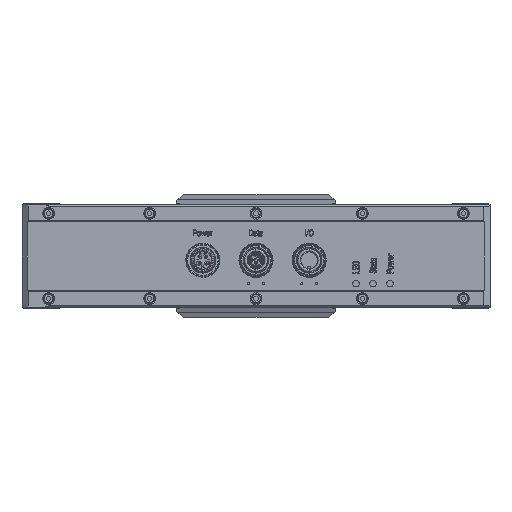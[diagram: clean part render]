
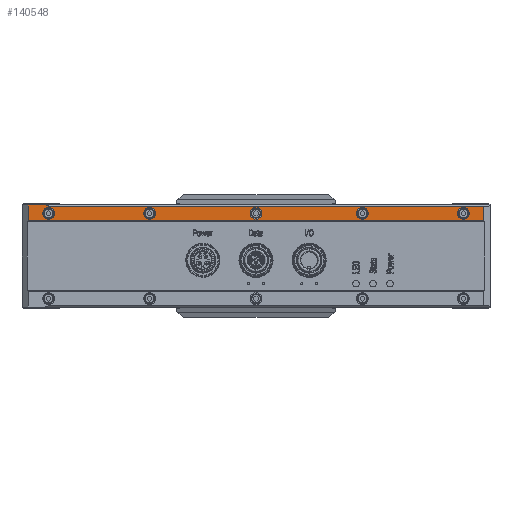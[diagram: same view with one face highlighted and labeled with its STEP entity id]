
A CAD part, front view. The second image highlights one B-rep face of the part: STEP entity #140548.
In plain terms, the highlighted planar face has unit normal (0, -1, 0).
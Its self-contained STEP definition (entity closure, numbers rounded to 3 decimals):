
#29742=DIRECTION('',(1.,0.,0.));
#29743=VECTOR('',#29742,204.5);
#29744=CARTESIAN_POINT('',(12.5,-11.,-0.5));
#29745=LINE('',#29744,#29743);
#29746=CARTESIAN_POINT('',(11.,-11.,0.));
#29747=CARTESIAN_POINT('',(11.049,-11.,-0.029));
#29748=CARTESIAN_POINT('',(11.143,-11.,-0.084));
#29749=CARTESIAN_POINT('',(11.276,-11.,-0.156));
#29750=CARTESIAN_POINT('',(11.403,-11.,-0.22));
#29751=CARTESIAN_POINT('',(11.515,-11.,-0.271));
#29752=CARTESIAN_POINT('',(11.648,-11.,-0.327));
#29753=CARTESIAN_POINT('',(11.765,-11.,-0.37));
#29754=CARTESIAN_POINT('',(11.88,-11.,-0.407));
#29755=CARTESIAN_POINT('',(11.988,-11.,-0.436));
#29756=CARTESIAN_POINT('',(12.091,-11.,-0.46));
#29757=CARTESIAN_POINT('',(12.196,-11.,-0.478));
#29758=CARTESIAN_POINT('',(12.298,-11.,-0.491));
#29759=CARTESIAN_POINT('',(12.4,-11.,-0.498));
#29760=CARTESIAN_POINT('',(12.467,-11.,-0.5));
#29761=CARTESIAN_POINT('',(12.5,-11.,-0.5));
#29763=DIRECTION('',(0.,0.,1.));
#29764=VECTOR('',#29763,7.);
#29765=CARTESIAN_POINT('',(217.,-11.,-7.5));
#29766=LINE('',#29765,#29764);
#29767=DIRECTION('',(1.,0.,0.));
#29768=VECTOR('',#29767,214.);
#29769=CARTESIAN_POINT('',(3.,-11.,-7.5));
#29770=LINE('',#29769,#29768);
#29771=DIRECTION('',(0.,0.,-1.));
#29772=VECTOR('',#29771,7.5);
#29773=CARTESIAN_POINT('',(3.,-11.,0.));
#29774=LINE('',#29773,#29772);
#29775=CARTESIAN_POINT('',(207.5,-11.,-4.));
#29776=DIRECTION('',(0.,1.,0.));
#29777=DIRECTION('',(1.,0.,0.));
#29778=AXIS2_PLACEMENT_3D('',#29775,#29776,#29777);
#29780=CARTESIAN_POINT('',(207.5,-11.,-4.));
#29781=DIRECTION('',(0.,1.,0.));
#29782=DIRECTION('',(-1.,0.,0.));
#29783=AXIS2_PLACEMENT_3D('',#29780,#29781,#29782);
#29785=CARTESIAN_POINT('',(160.,-11.,-4.));
#29786=DIRECTION('',(0.,1.,0.));
#29787=DIRECTION('',(1.,0.,0.));
#29788=AXIS2_PLACEMENT_3D('',#29785,#29786,#29787);
#29790=CARTESIAN_POINT('',(160.,-11.,-4.));
#29791=DIRECTION('',(0.,1.,0.));
#29792=DIRECTION('',(-1.,0.,0.));
#29793=AXIS2_PLACEMENT_3D('',#29790,#29791,#29792);
#29795=CARTESIAN_POINT('',(110.,-11.,-4.));
#29796=DIRECTION('',(0.,1.,0.));
#29797=DIRECTION('',(1.,0.,0.));
#29798=AXIS2_PLACEMENT_3D('',#29795,#29796,#29797);
#29800=CARTESIAN_POINT('',(110.,-11.,-4.));
#29801=DIRECTION('',(0.,1.,0.));
#29802=DIRECTION('',(-1.,0.,0.));
#29803=AXIS2_PLACEMENT_3D('',#29800,#29801,#29802);
#29805=CARTESIAN_POINT('',(60.,-11.,-4.));
#29806=DIRECTION('',(0.,1.,0.));
#29807=DIRECTION('',(1.,0.,0.));
#29808=AXIS2_PLACEMENT_3D('',#29805,#29806,#29807);
#29810=CARTESIAN_POINT('',(60.,-11.,-4.));
#29811=DIRECTION('',(0.,1.,0.));
#29812=DIRECTION('',(-1.,0.,0.));
#29813=AXIS2_PLACEMENT_3D('',#29810,#29811,#29812);
#29815=CARTESIAN_POINT('',(12.5,-11.,-4.));
#29816=DIRECTION('',(0.,1.,0.));
#29817=DIRECTION('',(1.,0.,0.));
#29818=AXIS2_PLACEMENT_3D('',#29815,#29816,#29817);
#29820=CARTESIAN_POINT('',(12.5,-11.,-4.));
#29821=DIRECTION('',(0.,1.,0.));
#29822=DIRECTION('',(-1.,0.,0.));
#29823=AXIS2_PLACEMENT_3D('',#29820,#29821,#29822);
#30372=DIRECTION('',(1.,0.,0.));
#30373=VECTOR('',#30372,8.);
#30374=CARTESIAN_POINT('',(3.,-11.,0.));
#30375=LINE('',#30374,#30373);
#84635=CARTESIAN_POINT('',(3.,-11.,-7.5));
#84637=VERTEX_POINT('',#84635);
#84639=CARTESIAN_POINT('',(3.,-11.,0.));
#84640=VERTEX_POINT('',#84639);
#84643=CARTESIAN_POINT('',(217.,-11.,-7.5));
#84645=VERTEX_POINT('',#84643);
#84649=CARTESIAN_POINT('',(217.,-11.,
-0.5));
#84650=VERTEX_POINT('',#84649);
#85895=VERTEX_POINT('',#29746);
#85896=VERTEX_POINT('',#29761);
#90390=CARTESIAN_POINT('',(204.75,-11.,-4.));
#90392=VERTEX_POINT('',#90390);
#90393=CARTESIAN_POINT('',(210.25,-11.,-4.));
#90394=VERTEX_POINT('',#90393);
#90409=CARTESIAN_POINT('',(157.25,-11.,-4.));
#90411=VERTEX_POINT('',#90409);
#90412=CARTESIAN_POINT('',(162.75,-11.,-4.));
#90413=VERTEX_POINT('',#90412);
#90428=CARTESIAN_POINT('',(107.25,-11.,-4.));
#90430=VERTEX_POINT('',#90428);
#90431=CARTESIAN_POINT('',(112.75,-11.,-4.));
#90432=VERTEX_POINT('',#90431);
#90447=CARTESIAN_POINT('',(57.25,-11.,-4.));
#90449=VERTEX_POINT('',#90447);
#90450=CARTESIAN_POINT('',(62.75,-11.,-4.));
#90451=VERTEX_POINT('',#90450);
#90466=CARTESIAN_POINT('',(9.75,-11.,-4.));
#90468=VERTEX_POINT('',#90466);
#90469=CARTESIAN_POINT('',(15.25,-11.,-4.));
#90470=VERTEX_POINT('',#90469);
#140503=CARTESIAN_POINT('',(110.,-11.,-3.75));
#140504=DIRECTION('',(0.,1.,0.));
#140505=DIRECTION('',(-1.,0.,0.));
#140506=AXIS2_PLACEMENT_3D('',#140503,#140504,#140505);
#140507=PLANE('',#140506);
#140508=ORIENTED_EDGE('',*,*,#140489,.T.);
#140509=ORIENTED_EDGE('',*,*,#140472,.T.);
#140510=ORIENTED_EDGE('',*,*,#96197,.F.);
#140511=ORIENTED_EDGE('',*,*,#96172,.F.);
#140513=ORIENTED_EDGE('',*,*,#140512,.F.);
#140515=ORIENTED_EDGE('',*,*,#140514,.T.);
#140516=EDGE_LOOP('',(#140508,#140509,#140510,#140511,#140513,#140515));
#140517=FACE_OUTER_BOUND('',#140516,.F.);
#140519=ORIENTED_EDGE('',*,*,#140518,.F.);
#140521=ORIENTED_EDGE('',*,*,#140520,.F.);
#140522=EDGE_LOOP('',(#140519,#140521));
#140523=FACE_BOUND('',#140522,.F.);
#140525=ORIENTED_EDGE('',*,*,#140524,.F.);
#140527=ORIENTED_EDGE('',*,*,#140526,.F.);
#140528=EDGE_LOOP('',(#140525,#140527));
#140529=FACE_BOUND('',#140528,.F.);
#140531=ORIENTED_EDGE('',*,*,#140530,.F.);
#140533=ORIENTED_EDGE('',*,*,#140532,.F.);
#140534=EDGE_LOOP('',(#140531,#140533));
#140535=FACE_BOUND('',#140534,.F.);
#140537=ORIENTED_EDGE('',*,*,#140536,.F.);
#140539=ORIENTED_EDGE('',*,*,#140538,.F.);
#140540=EDGE_LOOP('',(#140537,#140539));
#140541=FACE_BOUND('',#140540,.F.);
#140543=ORIENTED_EDGE('',*,*,#140542,.F.);
#140545=ORIENTED_EDGE('',*,*,#140544,.F.);
#140546=EDGE_LOOP('',(#140543,#140545));
#140547=FACE_BOUND('',#140546,.F.);
#29762=B_SPLINE_CURVE_WITH_KNOTS('',3,(#29746,#29747,#29748,#29749,#29750,
#29751,#29752,#29753,#29754,#29755,#29756,#29757,#29758,#29759,#29760,#29761),
.UNSPECIFIED.,.F.,.F.,(4,1,1,1,1,1,1,1,1,1,1,1,1,4),(0.,0.077,
0.154,0.231,0.308,0.385,
0.462,0.538,0.615,0.692,
0.769,0.846,0.923,1.),.UNSPECIFIED.);
#29779=CIRCLE('',#29778,2.75);
#29784=CIRCLE('',#29783,2.75);
#29789=CIRCLE('',#29788,2.75);
#29794=CIRCLE('',#29793,2.75);
#29799=CIRCLE('',#29798,2.75);
#29804=CIRCLE('',#29803,2.75);
#29809=CIRCLE('',#29808,2.75);
#29814=CIRCLE('',#29813,2.75);
#29819=CIRCLE('',#29818,2.75);
#29824=CIRCLE('',#29823,2.75);
#96172=EDGE_CURVE('',#84637,#84645,#29770,.T.);
#96197=EDGE_CURVE('',#84645,#84650,#29766,.T.);
#140472=EDGE_CURVE('',#85896,#84650,#29745,.T.);
#140489=EDGE_CURVE('',#85895,#85896,#29762,.T.);
#140512=EDGE_CURVE('',#84640,#84637,#29774,.T.);
#140514=EDGE_CURVE('',#84640,#85895,#30375,.T.);
#140518=EDGE_CURVE('',#90394,#90392,#29779,.T.);
#140520=EDGE_CURVE('',#90392,#90394,#29784,.T.);
#140524=EDGE_CURVE('',#90413,#90411,#29789,.T.);
#140526=EDGE_CURVE('',#90411,#90413,#29794,.T.);
#140530=EDGE_CURVE('',#90432,#90430,#29799,.T.);
#140532=EDGE_CURVE('',#90430,#90432,#29804,.T.);
#140536=EDGE_CURVE('',#90451,#90449,#29809,.T.);
#140538=EDGE_CURVE('',#90449,#90451,#29814,.T.);
#140542=EDGE_CURVE('',#90470,#90468,#29819,.T.);
#140544=EDGE_CURVE('',#90468,#90470,#29824,.T.);
#140548=ADVANCED_FACE('',(#140517,#140523,#140529,#140535,#140541,#140547),
#140507,.F.);
